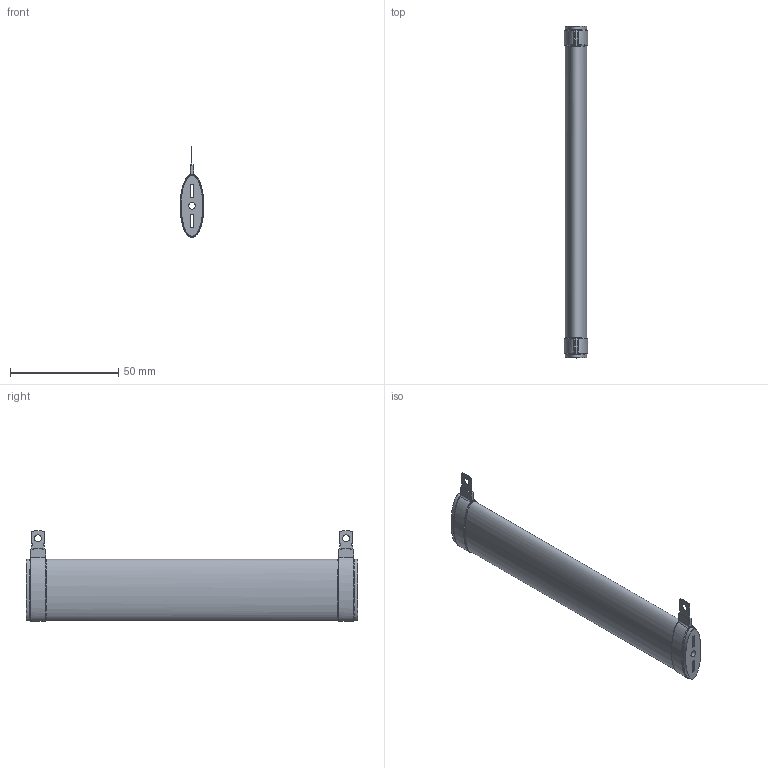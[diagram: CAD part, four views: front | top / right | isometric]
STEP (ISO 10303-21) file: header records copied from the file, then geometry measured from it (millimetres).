
FILE_DESCRIPTION(/* description */ (''),/* implementation_level */ '2;1');
FILE_NAME(/* name */ 'C:\_Vault\Dati\CATALOGO\RCE\RCE 91.stp',/* time_stamp */ '2014-03-19T17:18:30+01:00',/* author */ ('stefano'),/* organization */ (''),/* preprocessor_version */ 'ST-DEVELOPER v15.2',/* originating_system */ 'Autodesk Inventor 2014',/* authorisation */ '');
FILE_SCHEMA (('AUTOMOTIVE_DESIGN { 1 0 10303 214 3 1 1 }'));
Length unit declared in the file: millimetre
Products named in the file (1): RCE 91
Bounding box: 11 x 153 x 41.71 mm (x, y, z)
Volume: 30196.8 mm3; surface area: 16587.3 mm2
Topology: 1 solids, 1 shells, 84 faces, 222 edges, 142 vertices
Faces by surface type: plane 30, cylinder 23, bspline 23, torus 8
Full cylindrical faces by diameter (mm): 3.1 x1, 3.2 x2
Entity records: 4416 total; most frequent: CARTESIAN_POINT 2324, ORIENTED_EDGE 438, DIRECTION 356, EDGE_CURVE 219, VERTEX_POINT 142, AXIS2_PLACEMENT_3D 136, EDGE_LOOP 99, STYLED_ITEM 85
